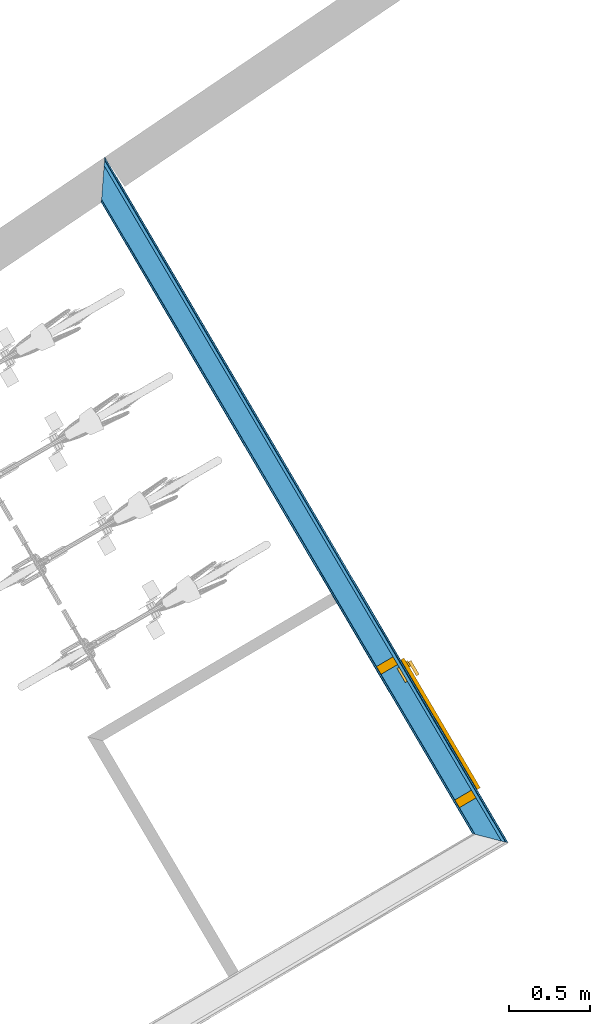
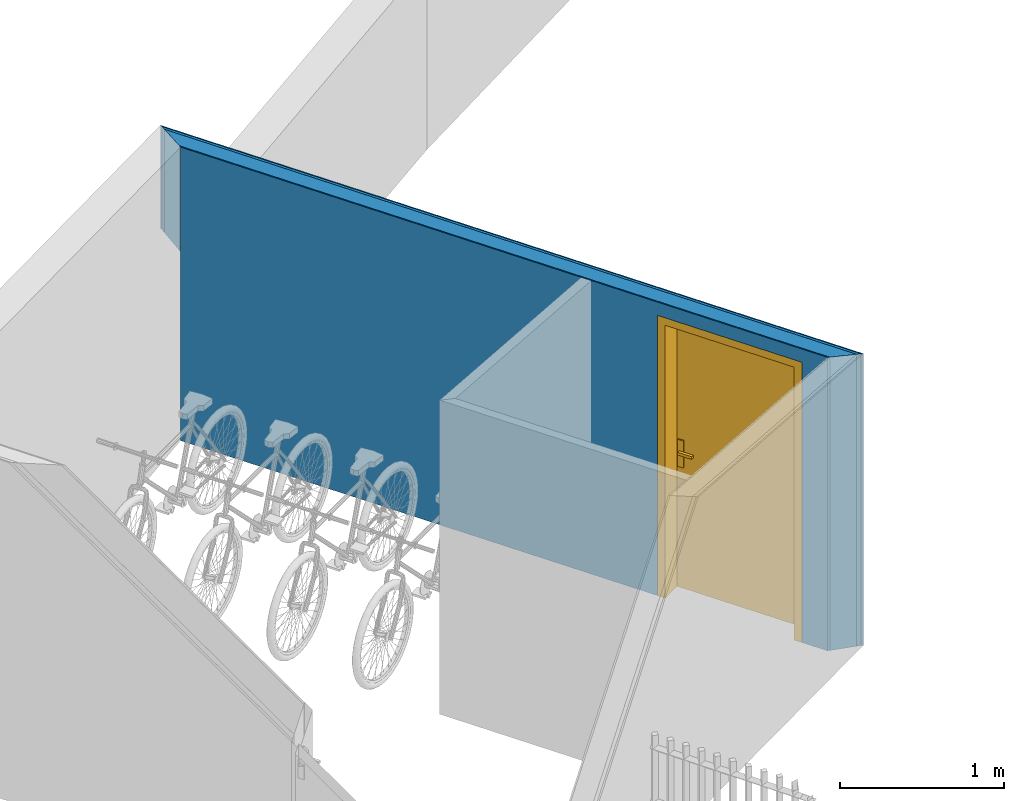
# One storey, part 116 of 195: 4 building element parts, 1 door, 1 opening, 1 element without a shape of its own.
"""IFC2X3 building model written with IfcOpenShell, lengths in metres."""

from ifc_helpers import new_model, entity, si_unit, converted_unit, derived_unit, money_unit, direction, frame, origin_with_axes, origin_2d_with_axis, place, context, subcontext, project, spatial, polyline, rectangle, outline, extrude, boolean, faceted_brep, source, transform, mapped, material, type_object, element, fill, aggregate, save


model = new_model("IFC2X3")

# Units and contexts
model_context = context("Model", 3, precision=1e-05, world=origin_with_axes(), true_north=direction((0.0, 1.0)))
body_context = subcontext(model_context, "Body", "Model", "MODEL_VIEW")
ifc_project = project(units=[si_unit("LENGTHUNIT", "METRE"), si_unit("AREAUNIT", "SQUARE_METRE"), si_unit("VOLUMEUNIT", "CUBIC_METRE"), converted_unit("PLANEANGLEUNIT", "DEGREE", entity("IfcPlaneAngleMeasure", 0.0174532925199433), si_unit("PLANEANGLEUNIT", "RADIAN"), dimensions=[0, 0, 0, 0, 0, 0, 0]), money_unit("CHF"), converted_unit("TIMEUNIT", "Year", entity("IfcTimeMeasure", 31557600.0), si_unit("TIMEUNIT", "SECOND"), dimensions=[0, 0, 1, 0, 0, 0, 0]), si_unit("MASSUNIT", "GRAM", prefix="KILO"), si_unit("THERMODYNAMICTEMPERATUREUNIT", "DEGREE_CELSIUS"), si_unit("LUMINOUSINTENSITYUNIT", "LUMEN"), si_unit("ENERGYUNIT", "JOULE", prefix="MEGA"), derived_unit("THERMALCONDUCTANCEUNIT", [(si_unit("POWERUNIT", "WATT"), 1), (si_unit("LENGTHUNIT", "METRE"), -1), (si_unit("THERMODYNAMICTEMPERATUREUNIT", "KELVIN"), -1)]), derived_unit("SPECIFICHEATCAPACITYUNIT", [(si_unit("ENERGYUNIT", "JOULE"), 1), (si_unit("MASSUNIT", "GRAM", prefix="KILO"), -1), (si_unit("THERMODYNAMICTEMPERATUREUNIT", "KELVIN"), -1)]), derived_unit("MASSDENSITYUNIT", [(si_unit("MASSUNIT", "GRAM", prefix="KILO"), 1), (si_unit("VOLUMEUNIT", "CUBIC_METRE"), -1)])], contexts=[model_context])

# Site, building, storey
site_placement = place(None, origin_with_axes())
site = spatial("IfcSite", under=ifc_project, at=site_placement, Name="Site", CompositionType="ELEMENT")
building_placement = place(site_placement, origin_with_axes())
building = spatial("IfcBuilding", under=site, at=building_placement, Name="Bâtiment", CompositionType="ELEMENT")
storey_placement = place(building_placement, origin_with_axes())
storey = spatial("IfcBuildingStorey", under=building, at=storey_placement, Name="rdc", CompositionType="ELEMENT", Elevation=0.0)

# Door
door_style = type_object("IfcDoorStyle", Name="Porte_1v", ConstructionType="NOTDEFINED", OperationType="NOTDEFINED", ParameterTakesPrecedence=False, Sizeable=False)
shared_shape = source(origin_with_axes(), body_context, "Body", "Brep", [
    faceted_brep([(0.505, 0.0, 0.0), (0.465, 0.0, 0.0), (0.465, 0.0, 2.04), (-0.465, 0.0, 2.04), (-0.465, 0.0, 0.0), (-0.505, 0.0, 0.0), (-0.505, 0.0, 2.08), (0.505, 0.0, 2.08), (0.505, -0.16, 0.0), (0.45, -0.16, 0.0), (0.45, -0.015, 0.0), (0.465, -0.015, 0.0), (0.465, -0.015, 2.04), (-0.465, -0.015, 2.04), (-0.465, -0.015, 0.0), (-0.45, -0.015, 0.0), (-0.45, -0.16, 0.0), (-0.505, -0.16, 0.0), (-0.505, -0.16, 2.08), (0.505, -0.16, 2.08), (-0.45, -0.16, 2.025), (0.45, -0.16, 2.025), (0.45, -0.015, 2.025), (-0.45, -0.015, 2.025)], [[[0, 1, 2, 3, 4, 5, 6, 7]], [[0, 8, 9, 10, 11, 1]], [[1, 11, 12, 2]], [[2, 12, 13, 3]], [[3, 13, 14, 4]], [[5, 4, 14, 15, 16, 17]], [[18, 6, 5, 17]], [[19, 7, 6, 18]], [[8, 0, 7, 19]], [[9, 8, 19, 18, 17, 16, 20, 21]], [[10, 9, 21, 22]], [[11, 10, 22, 23, 15, 14, 13, 12]], [[23, 20, 16, 15]], [[22, 21, 20, 23]]]),
    faceted_brep([(-0.4, -0.015, 0.9), (-0.44, -0.015, 0.9), (-0.44, -0.015, 1.1), (-0.4, -0.015, 1.1), (-0.4, -0.025, 0.9), (-0.44, -0.025, 0.9), (-0.44, -0.025, 1.1), (-0.4, -0.025, 1.1)], [[[0, 1, 2, 3]], [[1, 0, 4, 5]], [[2, 1, 5, 6]], [[3, 2, 6, 7]], [[0, 3, 7, 4]], [[5, 4, 7, 6]]]),
    faceted_brep([(-0.33, -0.025, 1.0), (-0.43, -0.025, 1.0), (-0.43, -0.025, 1.02), (-0.33, -0.025, 1.02), (-0.33, -0.045, 1.0), (-0.43, -0.045, 1.0), (-0.43, -0.045, 1.02), (-0.33, -0.045, 1.02)], [[[0, 1, 2, 3]], [[1, 0, 4, 5]], [[2, 1, 5, 6]], [[3, 2, 6, 7]], [[0, 3, 7, 4]], [[5, 4, 7, 6]]]),
    faceted_brep([(-0.4, 0.035, 0.9), (-0.44, 0.035, 0.9), (-0.44, 0.035, 1.1), (-0.4, 0.035, 1.1), (-0.4, 0.025, 0.9), (-0.44, 0.025, 0.9), (-0.44, 0.025, 1.1), (-0.4, 0.025, 1.1)], [[[0, 1, 2, 3]], [[1, 0, 4, 5]], [[2, 1, 5, 6]], [[3, 2, 6, 7]], [[0, 3, 7, 4]], [[5, 4, 7, 6]]]),
    faceted_brep([(-0.33, 0.05500000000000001, 1.0), (-0.43, 0.05500000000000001, 1.0), (-0.43, 0.05500000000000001, 1.02), (-0.33, 0.05500000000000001, 1.02), (-0.33, 0.035, 1.0), (-0.43, 0.035, 1.0), (-0.43, 0.035, 1.02), (-0.33, 0.035, 1.02)], [[[0, 1, 2, 3]], [[1, 0, 4, 5]], [[2, 1, 5, 6]], [[3, 2, 6, 7]], [[0, 3, 7, 4]], [[5, 4, 7, 6]]]),
    faceted_brep([(-0.465, 0.025, 0.0), (0.465, 0.025, 0.0), (0.465, -0.015, 0.0), (-0.465, -0.015, 0.0), (-0.465, 0.025, 2.04), (0.465, 0.025, 2.04), (0.465, -0.015, 2.04), (-0.465, -0.015, 2.04)], [[[0, 1, 2, 3]], [[0, 4, 5, 1]], [[1, 5, 6, 2]], [[3, 2, 6, 7]], [[4, 0, 3, 7]], [[5, 4, 7, 6]]]),
])
wall_placement = place(storey_placement, frame((9546.817992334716, -1032.553633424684, 57.7), z_axis=(0.0, 0.0, 1.0), x_axis=(0.5069461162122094, -0.8619777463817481, 0.0)))
opening_placement = place(wall_placement, frame((4.066545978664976, 0.0, 0.0), z_axis=(0.0, 0.0, 1.0), x_axis=(1.0, 0.0, 0.0)))
door_placement = place(opening_placement, frame((-0.4649999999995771, 0.0, 0.0), z_axis=(0.0, 0.0, 1.0), x_axis=(1.0, 0.0, 0.0)))
door = element("IfcDoor", 1, at=door_placement, inside=storey, type_object=door_style, Name="Por-302", OverallHeight=2.04, OverallWidth=0.93, context=body_context, shape_type="MappedRepresentation", body=[
    mapped(shared_shape, transform((0.4650000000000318, 0.0, 0.0))),
])

# Wall, opening
wall_type = type_object("IfcWallType", Name="1/Ossatur bois 160   non isol 160", PredefinedType="NOTDEFINED")
wall = element("IfcWall", 2, at=wall_placement, inside=storey, type_object=wall_type, Name="Mur-108")
opening = element("IfcOpeningElement", 3, at=opening_placement, cuts=wall, Name="Por-302", context=body_context, shape_type="SweptSolid", body=[
    extrude(rectangle(XDim=1.01000001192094, YDim=2.079999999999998, at=origin_2d_with_axis()), frame((5.960373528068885e-09, -0.1600000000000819, 1.039999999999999), z_axis=(0.0, 1.0, 0.0), x_axis=(1.0, 0.0, 0.0)), (0.0, 0.0, 1.0), 0.32),
])

fill(opening, door)

# Building element part
ifc_material_1 = material(Name="Sans Trame 296962763")
building_element_part_1_placement = place(wall_placement, origin_with_axes())
building_element_part_1 = element("IfcBuildingElementPart", 4, at=building_element_part_1_placement, material=ifc_material_1, Name="Sans Trame 296962763", context=body_context, shape_type="CSG", body=[
    boolean("DIFFERENCE", boolean("DIFFERENCE", boolean("DIFFERENCE", boolean("DIFFERENCE", extrude(outline(polyline([(0.0, -0.1599999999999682), (4.911132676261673, -0.1599999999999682), (4.911132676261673, -0.1500000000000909), (0.0, -0.1499999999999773), (0.0, -0.1599999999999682)])), origin_with_axes(), (0.0, 0.0, 1.0), 2.75), faceted_brep([(0.2300026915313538, -0.1500000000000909, 1.399999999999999), (0.230002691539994, -0.1499999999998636, 0.0), (0.0, -0.1499999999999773, 0.0), (0.0, -0.1499999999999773, 2.75), (4.911132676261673, -0.1500000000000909, 2.75), (4.911132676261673, -0.1500000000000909, 0.0), (4.761132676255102, -0.1499999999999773, 0.0), (4.761132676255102, -0.1500000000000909, 2.177348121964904), (0.2162248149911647, -0.1500000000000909, 2.177348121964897), (0.2162248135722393, -0.1499999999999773, 1.399999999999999), (0.2306398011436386, -0.1600000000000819, 1.399999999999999), (0.2306398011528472, -0.1599999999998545, 0.0), (0.0, -0.1599999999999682, 0.0), (0.0, -0.1599999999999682, 2.75), (4.911132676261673, -0.1599999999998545, 2.75), (4.911132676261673, -0.1599999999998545, 0.0), (4.751132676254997, -0.1599999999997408, 0.0), (4.751132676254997, -0.1599999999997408, 2.178223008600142), (0.2306398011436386, -0.1600000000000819, 2.178223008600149)], [[[0, 1, 2, 3, 4, 5, 6, 7, 8, 9]], [[1, 0, 10, 11]], [[1, 11, 12, 2]], [[3, 2, 12, 13]], [[3, 13, 14, 4]], [[14, 15, 5, 4]], [[16, 6, 5, 15]], [[7, 6, 16, 17]], [[8, 7, 17, 18]], [[9, 8, 18, 10]], [[0, 9, 10]], [[17, 16, 15, 14, 13, 12, 11, 10, 18]]])), faceted_brep([(0.2223573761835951, -0.02999999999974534, 1.400000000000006), (0.2223573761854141, -0.0300000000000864, 0.0), (0.0, -0.02999999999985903, 0.0), (0.0, -0.02999999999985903, 2.75), (4.911132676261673, -0.02999999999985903, 2.75), (4.911132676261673, -0.02999999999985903, 0.0), (4.881132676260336, -0.02999999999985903, 0.0), (4.881132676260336, -0.02999999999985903, 2.166849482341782), (0.04324498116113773, -0.02999999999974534, 2.16684948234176), (0.04324496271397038, -0.02999999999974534, 1.399999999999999), (0.2300026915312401, -0.1499999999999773, 1.399999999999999), (0.230002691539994, -0.1499999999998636, 0.0), (0.0, -0.1499999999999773, 0.0), (0.0, -0.1499999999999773, 2.75), (4.911132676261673, -0.1500000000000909, 2.75), (4.911132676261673, -0.1500000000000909, 0.0), (4.761132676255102, -0.1499999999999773, 0.0), (4.761132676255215, -0.1499999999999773, 2.177348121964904), (0.2162248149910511, -0.1499999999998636, 2.177348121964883), (0.216224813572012, -0.1499999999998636, 1.399999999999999)], [[[0, 1, 2, 3, 4, 5, 6, 7, 8, 9]], [[1, 0, 10, 11]], [[1, 11, 12, 2]], [[3, 2, 12, 13]], [[3, 13, 14, 4]], [[14, 15, 5, 4]], [[16, 6, 5, 15]], [[7, 6, 16, 17]], [[8, 7, 17, 18]], [[9, 8, 18, 19]], [[0, 9, 19, 10]], [[17, 16, 15, 14, 13, 12, 11, 10, 19, 18]]])), faceted_brep([(0.2210831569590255, -0.009999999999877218, 1.400000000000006), (0.2210831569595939, -0.01000000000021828, 0.0), (0.0, -0.009999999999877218, 0.0), (0.0, -0.009999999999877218, 2.75), (4.911132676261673, -0.009999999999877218, 2.75), (4.911132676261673, -0.009999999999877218, 0.0), (4.901132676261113, -0.009999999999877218, 0.0), (4.901132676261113, -0.009999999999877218, 2.165099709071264), (0.01441500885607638, -0.009999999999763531, 2.165099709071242), (0.01441498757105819, -0.009999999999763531, 1.399999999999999), (0.2223573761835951, -0.02999999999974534, 1.400000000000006), (0.2223573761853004, -0.02999999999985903, 0.0), (0.0, -0.02999999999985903, 0.0), (0.0, -0.02999999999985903, 2.75), (4.911132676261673, -0.02999999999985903, 2.75), (4.911132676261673, -0.02999999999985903, 0.0), (4.881132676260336, -0.02999999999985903, 0.0), (4.881132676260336, -0.02999999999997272, 2.166849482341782), (0.04324498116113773, -0.02999999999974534, 2.16684948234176), (0.04324496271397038, -0.02999999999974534, 1.399999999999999)], [[[0, 1, 2, 3, 4, 5, 6, 7, 8, 9]], [[1, 0, 10, 11]], [[1, 11, 12, 2]], [[3, 2, 12, 13]], [[3, 13, 14, 4]], [[14, 15, 5, 4]], [[16, 6, 5, 15]], [[7, 6, 16, 17]], [[8, 7, 17, 18]], [[9, 8, 18, 19]], [[0, 9, 19, 10]], [[17, 16, 15, 14, 13, 12, 11, 10, 19, 18]]])), faceted_brep([(4.911132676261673, 0.0, 0.0), (4.911132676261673, 0.0, 2.164224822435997), (4.911132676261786, 0.0, 2.75), (4.911132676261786, -0.009999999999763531, 2.75), (4.911132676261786, -0.009999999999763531, 0.0), (4.901132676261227, -0.009999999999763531, 0.0), (4.901132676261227, -0.009999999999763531, 2.165099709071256), (6.578829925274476e-09, 1.118633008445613e-08, 2.164224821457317), (0.0, 0.0, 2.75), (0.0, -0.009999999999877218, 2.75), (0.0, -0.009999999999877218, 0.0), (0.2210831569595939, -0.009999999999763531, 0.0), (0.2210831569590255, -0.009999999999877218, 1.400000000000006), (0.01441498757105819, -0.009999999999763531, 1.399999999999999), (0.01441500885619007, -0.009999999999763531, 2.165099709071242), (0.0, 0.0, 1.399999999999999), (0.0, 0.0, 0.0), (0.2204460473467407, 0.0, 0.0), (0.2204460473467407, 0.0, 1.400000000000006)], [[[0, 1, 2, 3, 4]], [[1, 0, 5, 6]], [[1, 7, 8, 2]], [[8, 9, 3, 2]], [[6, 5, 4, 3, 9, 10, 11, 12, 13, 14]], [[5, 0, 4]], [[7, 1, 6, 14]], [[7, 15, 16, 10, 9, 8]], [[17, 11, 10, 16]], [[17, 18, 12, 11]], [[18, 15, 13, 12]], [[15, 7, 14, 13]], [[18, 17, 16, 15]]])),
])

ifc_material_2 = material(Name="Lame d'air 275581439")
building_element_part_2_placement = place(wall_placement, origin_with_axes())
building_element_part_2 = element("IfcBuildingElementPart", 5, at=building_element_part_2_placement, material=ifc_material_2, Name="Lame d'air 275581439", context=body_context, shape_type="CSG", body=[
    boolean("DIFFERENCE", boolean("DIFFERENCE", boolean("DIFFERENCE", boolean("DIFFERENCE", extrude(outline(polyline([(0.0, -0.1499999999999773), (4.911132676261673, -0.1500000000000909), (4.911132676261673, -0.02999999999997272), (0.0, -0.02999999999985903), (0.0, -0.1499999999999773)])), origin_with_axes(), (0.0, 0.0, 1.0), 2.75), faceted_brep([(0.2300026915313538, -0.1500000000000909, 1.399999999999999), (0.230002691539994, -0.1499999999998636, 0.0), (0.0, -0.1499999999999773, 0.0), (0.0, -0.1499999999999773, 2.75), (4.911132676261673, -0.1500000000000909, 2.75), (4.911132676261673, -0.1500000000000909, 0.0), (4.761132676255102, -0.1499999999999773, 0.0), (4.761132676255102, -0.1500000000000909, 2.177348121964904), (0.2162248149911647, -0.1500000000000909, 2.177348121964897), (0.2162248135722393, -0.1499999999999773, 1.399999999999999), (0.2306398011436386, -0.1600000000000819, 1.399999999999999), (0.2306398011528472, -0.1599999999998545, 0.0), (0.0, -0.1599999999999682, 0.0), (0.0, -0.1599999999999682, 2.75), (4.911132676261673, -0.1599999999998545, 2.75), (4.911132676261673, -0.1599999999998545, 0.0), (4.751132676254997, -0.1599999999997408, 0.0), (4.751132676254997, -0.1599999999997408, 2.178223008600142), (0.2306398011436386, -0.1600000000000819, 2.178223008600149)], [[[0, 1, 2, 3, 4, 5, 6, 7, 8, 9]], [[1, 0, 10, 11]], [[1, 11, 12, 2]], [[3, 2, 12, 13]], [[3, 13, 14, 4]], [[14, 15, 5, 4]], [[16, 6, 5, 15]], [[7, 6, 16, 17]], [[8, 7, 17, 18]], [[9, 8, 18, 10]], [[0, 9, 10]], [[17, 16, 15, 14, 13, 12, 11, 10, 18]]])), faceted_brep([(0.2223573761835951, -0.02999999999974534, 1.400000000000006), (0.2223573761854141, -0.0300000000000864, 0.0), (0.0, -0.02999999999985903, 0.0), (0.0, -0.02999999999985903, 2.75), (4.911132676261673, -0.02999999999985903, 2.75), (4.911132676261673, -0.02999999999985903, 0.0), (4.881132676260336, -0.02999999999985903, 0.0), (4.881132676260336, -0.02999999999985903, 2.166849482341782), (0.04324498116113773, -0.02999999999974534, 2.16684948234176), (0.04324496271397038, -0.02999999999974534, 1.399999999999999), (0.2300026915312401, -0.1499999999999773, 1.399999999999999), (0.230002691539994, -0.1499999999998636, 0.0), (0.0, -0.1499999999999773, 0.0), (0.0, -0.1499999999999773, 2.75), (4.911132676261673, -0.1500000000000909, 2.75), (4.911132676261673, -0.1500000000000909, 0.0), (4.761132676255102, -0.1499999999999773, 0.0), (4.761132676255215, -0.1499999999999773, 2.177348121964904), (0.2162248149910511, -0.1499999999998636, 2.177348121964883), (0.216224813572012, -0.1499999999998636, 1.399999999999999)], [[[0, 1, 2, 3, 4, 5, 6, 7, 8, 9]], [[1, 0, 10, 11]], [[1, 11, 12, 2]], [[3, 2, 12, 13]], [[3, 13, 14, 4]], [[14, 15, 5, 4]], [[16, 6, 5, 15]], [[7, 6, 16, 17]], [[8, 7, 17, 18]], [[9, 8, 18, 19]], [[0, 9, 19, 10]], [[17, 16, 15, 14, 13, 12, 11, 10, 19, 18]]])), faceted_brep([(0.2210831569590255, -0.009999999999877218, 1.400000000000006), (0.2210831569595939, -0.01000000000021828, 0.0), (0.0, -0.009999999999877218, 0.0), (0.0, -0.009999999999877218, 2.75), (4.911132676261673, -0.009999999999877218, 2.75), (4.911132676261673, -0.009999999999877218, 0.0), (4.901132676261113, -0.009999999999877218, 0.0), (4.901132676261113, -0.009999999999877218, 2.165099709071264), (0.01441500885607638, -0.009999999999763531, 2.165099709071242), (0.01441498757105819, -0.009999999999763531, 1.399999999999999), (0.2223573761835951, -0.02999999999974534, 1.400000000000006), (0.2223573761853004, -0.02999999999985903, 0.0), (0.0, -0.02999999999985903, 0.0), (0.0, -0.02999999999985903, 2.75), (4.911132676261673, -0.02999999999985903, 2.75), (4.911132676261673, -0.02999999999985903, 0.0), (4.881132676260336, -0.02999999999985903, 0.0), (4.881132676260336, -0.02999999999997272, 2.166849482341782), (0.04324498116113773, -0.02999999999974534, 2.16684948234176), (0.04324496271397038, -0.02999999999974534, 1.399999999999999)], [[[0, 1, 2, 3, 4, 5, 6, 7, 8, 9]], [[1, 0, 10, 11]], [[1, 11, 12, 2]], [[3, 2, 12, 13]], [[3, 13, 14, 4]], [[14, 15, 5, 4]], [[16, 6, 5, 15]], [[7, 6, 16, 17]], [[8, 7, 17, 18]], [[9, 8, 18, 19]], [[0, 9, 19, 10]], [[17, 16, 15, 14, 13, 12, 11, 10, 19, 18]]])), faceted_brep([(4.911132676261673, 0.0, 0.0), (4.911132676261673, 0.0, 2.164224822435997), (4.911132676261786, 0.0, 2.75), (4.911132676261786, -0.009999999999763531, 2.75), (4.911132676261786, -0.009999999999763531, 0.0), (4.901132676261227, -0.009999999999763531, 0.0), (4.901132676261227, -0.009999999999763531, 2.165099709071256), (6.578829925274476e-09, 1.118633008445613e-08, 2.164224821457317), (0.0, 0.0, 2.75), (0.0, -0.009999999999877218, 2.75), (0.0, -0.009999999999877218, 0.0), (0.2210831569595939, -0.009999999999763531, 0.0), (0.2210831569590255, -0.009999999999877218, 1.400000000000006), (0.01441498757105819, -0.009999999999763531, 1.399999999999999), (0.01441500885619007, -0.009999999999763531, 2.165099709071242), (0.0, 0.0, 1.399999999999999), (0.0, 0.0, 0.0), (0.2204460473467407, 0.0, 0.0), (0.2204460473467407, 0.0, 1.400000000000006)], [[[0, 1, 2, 3, 4]], [[1, 0, 5, 6]], [[1, 7, 8, 2]], [[8, 9, 3, 2]], [[6, 5, 4, 3, 9, 10, 11, 12, 13, 14]], [[5, 0, 4]], [[7, 1, 6, 14]], [[7, 15, 16, 10, 9, 8]], [[17, 11, 10, 16]], [[17, 18, 12, 11]], [[18, 15, 13, 12]], [[15, 7, 14, 13]], [[18, 17, 16, 15]]])),
])

ifc_material_3 = material(Name="Lame d'air 323202302")
building_element_part_3_placement = place(wall_placement, origin_with_axes())
building_element_part_3 = element("IfcBuildingElementPart", 6, at=building_element_part_3_placement, material=ifc_material_3, Name="Lame d'air 323202302", context=body_context, shape_type="CSG", body=[
    boolean("DIFFERENCE", boolean("DIFFERENCE", boolean("DIFFERENCE", boolean("DIFFERENCE", extrude(outline(polyline([(0.0, -0.02999999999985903), (4.911132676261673, -0.02999999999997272), (4.911132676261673, -0.009999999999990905), (0.0, -0.009999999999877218), (0.0, -0.02999999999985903)])), origin_with_axes(), (0.0, 0.0, 1.0), 2.75), faceted_brep([(0.2300026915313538, -0.1500000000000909, 1.399999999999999), (0.230002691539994, -0.1499999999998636, 0.0), (0.0, -0.1499999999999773, 0.0), (0.0, -0.1499999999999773, 2.75), (4.911132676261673, -0.1500000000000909, 2.75), (4.911132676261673, -0.1500000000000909, 0.0), (4.761132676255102, -0.1499999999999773, 0.0), (4.761132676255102, -0.1500000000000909, 2.177348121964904), (0.2162248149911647, -0.1500000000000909, 2.177348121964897), (0.2162248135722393, -0.1499999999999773, 1.399999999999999), (0.2306398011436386, -0.1600000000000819, 1.399999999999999), (0.2306398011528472, -0.1599999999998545, 0.0), (0.0, -0.1599999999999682, 0.0), (0.0, -0.1599999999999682, 2.75), (4.911132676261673, -0.1599999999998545, 2.75), (4.911132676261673, -0.1599999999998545, 0.0), (4.751132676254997, -0.1599999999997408, 0.0), (4.751132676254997, -0.1599999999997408, 2.178223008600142), (0.2306398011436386, -0.1600000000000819, 2.178223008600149)], [[[0, 1, 2, 3, 4, 5, 6, 7, 8, 9]], [[1, 0, 10, 11]], [[1, 11, 12, 2]], [[3, 2, 12, 13]], [[3, 13, 14, 4]], [[14, 15, 5, 4]], [[16, 6, 5, 15]], [[7, 6, 16, 17]], [[8, 7, 17, 18]], [[9, 8, 18, 10]], [[0, 9, 10]], [[17, 16, 15, 14, 13, 12, 11, 10, 18]]])), faceted_brep([(0.2223573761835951, -0.02999999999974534, 1.400000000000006), (0.2223573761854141, -0.0300000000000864, 0.0), (0.0, -0.02999999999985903, 0.0), (0.0, -0.02999999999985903, 2.75), (4.911132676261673, -0.02999999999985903, 2.75), (4.911132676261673, -0.02999999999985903, 0.0), (4.881132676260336, -0.02999999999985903, 0.0), (4.881132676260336, -0.02999999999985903, 2.166849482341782), (0.04324498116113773, -0.02999999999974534, 2.16684948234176), (0.04324496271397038, -0.02999999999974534, 1.399999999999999), (0.2300026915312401, -0.1499999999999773, 1.399999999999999), (0.230002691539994, -0.1499999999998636, 0.0), (0.0, -0.1499999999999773, 0.0), (0.0, -0.1499999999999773, 2.75), (4.911132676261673, -0.1500000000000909, 2.75), (4.911132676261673, -0.1500000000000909, 0.0), (4.761132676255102, -0.1499999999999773, 0.0), (4.761132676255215, -0.1499999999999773, 2.177348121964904), (0.2162248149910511, -0.1499999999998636, 2.177348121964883), (0.216224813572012, -0.1499999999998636, 1.399999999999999)], [[[0, 1, 2, 3, 4, 5, 6, 7, 8, 9]], [[1, 0, 10, 11]], [[1, 11, 12, 2]], [[3, 2, 12, 13]], [[3, 13, 14, 4]], [[14, 15, 5, 4]], [[16, 6, 5, 15]], [[7, 6, 16, 17]], [[8, 7, 17, 18]], [[9, 8, 18, 19]], [[0, 9, 19, 10]], [[17, 16, 15, 14, 13, 12, 11, 10, 19, 18]]])), faceted_brep([(0.2210831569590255, -0.009999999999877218, 1.400000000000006), (0.2210831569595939, -0.01000000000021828, 0.0), (0.0, -0.009999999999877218, 0.0), (0.0, -0.009999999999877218, 2.75), (4.911132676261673, -0.009999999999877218, 2.75), (4.911132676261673, -0.009999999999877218, 0.0), (4.901132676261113, -0.009999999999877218, 0.0), (4.901132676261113, -0.009999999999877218, 2.165099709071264), (0.01441500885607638, -0.009999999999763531, 2.165099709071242), (0.01441498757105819, -0.009999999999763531, 1.399999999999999), (0.2223573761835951, -0.02999999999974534, 1.400000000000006), (0.2223573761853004, -0.02999999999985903, 0.0), (0.0, -0.02999999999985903, 0.0), (0.0, -0.02999999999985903, 2.75), (4.911132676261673, -0.02999999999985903, 2.75), (4.911132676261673, -0.02999999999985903, 0.0), (4.881132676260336, -0.02999999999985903, 0.0), (4.881132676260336, -0.02999999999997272, 2.166849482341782), (0.04324498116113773, -0.02999999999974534, 2.16684948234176), (0.04324496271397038, -0.02999999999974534, 1.399999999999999)], [[[0, 1, 2, 3, 4, 5, 6, 7, 8, 9]], [[1, 0, 10, 11]], [[1, 11, 12, 2]], [[3, 2, 12, 13]], [[3, 13, 14, 4]], [[14, 15, 5, 4]], [[16, 6, 5, 15]], [[7, 6, 16, 17]], [[8, 7, 17, 18]], [[9, 8, 18, 19]], [[0, 9, 19, 10]], [[17, 16, 15, 14, 13, 12, 11, 10, 19, 18]]])), faceted_brep([(4.911132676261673, 0.0, 0.0), (4.911132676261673, 0.0, 2.164224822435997), (4.911132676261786, 0.0, 2.75), (4.911132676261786, -0.009999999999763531, 2.75), (4.911132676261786, -0.009999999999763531, 0.0), (4.901132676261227, -0.009999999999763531, 0.0), (4.901132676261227, -0.009999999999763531, 2.165099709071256), (6.578829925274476e-09, 1.118633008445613e-08, 2.164224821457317), (0.0, 0.0, 2.75), (0.0, -0.009999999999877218, 2.75), (0.0, -0.009999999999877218, 0.0), (0.2210831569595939, -0.009999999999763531, 0.0), (0.2210831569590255, -0.009999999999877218, 1.400000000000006), (0.01441498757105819, -0.009999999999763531, 1.399999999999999), (0.01441500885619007, -0.009999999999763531, 2.165099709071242), (0.0, 0.0, 1.399999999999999), (0.0, 0.0, 0.0), (0.2204460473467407, 0.0, 0.0), (0.2204460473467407, 0.0, 1.400000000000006)], [[[0, 1, 2, 3, 4]], [[1, 0, 5, 6]], [[1, 7, 8, 2]], [[8, 9, 3, 2]], [[6, 5, 4, 3, 9, 10, 11, 12, 13, 14]], [[5, 0, 4]], [[7, 1, 6, 14]], [[7, 15, 16, 10, 9, 8]], [[17, 11, 10, 16]], [[17, 18, 12, 11]], [[18, 15, 13, 12]], [[15, 7, 14, 13]], [[18, 17, 16, 15]]])),
])

ifc_material_4 = material(Name="Hachure solide 323202122")
building_element_part_4_placement = place(wall_placement, origin_with_axes())
building_element_part_4 = element("IfcBuildingElementPart", 7, at=building_element_part_4_placement, material=ifc_material_4, Name="Hachure solide 323202122", context=body_context, shape_type="CSG", body=[
    boolean("DIFFERENCE", boolean("DIFFERENCE", boolean("DIFFERENCE", boolean("DIFFERENCE", extrude(outline(polyline([(0.0, -0.009999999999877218), (4.911132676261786, -0.009999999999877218), (4.911132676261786, 0.0), (0.0, 0.0), (0.0, -0.009999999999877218)])), origin_with_axes(), (0.0, 0.0, 1.0), 2.75), faceted_brep([(0.2300026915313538, -0.1500000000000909, 1.399999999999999), (0.230002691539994, -0.1499999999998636, 0.0), (0.0, -0.1499999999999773, 0.0), (0.0, -0.1499999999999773, 2.75), (4.911132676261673, -0.1500000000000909, 2.75), (4.911132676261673, -0.1500000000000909, 0.0), (4.761132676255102, -0.1499999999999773, 0.0), (4.761132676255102, -0.1500000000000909, 2.177348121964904), (0.2162248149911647, -0.1500000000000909, 2.177348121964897), (0.2162248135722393, -0.1499999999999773, 1.399999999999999), (0.2306398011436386, -0.1600000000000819, 1.399999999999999), (0.2306398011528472, -0.1599999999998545, 0.0), (0.0, -0.1599999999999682, 0.0), (0.0, -0.1599999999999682, 2.75), (4.911132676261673, -0.1599999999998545, 2.75), (4.911132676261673, -0.1599999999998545, 0.0), (4.751132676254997, -0.1599999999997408, 0.0), (4.751132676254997, -0.1599999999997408, 2.178223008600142), (0.2306398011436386, -0.1600000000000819, 2.178223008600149)], [[[0, 1, 2, 3, 4, 5, 6, 7, 8, 9]], [[1, 0, 10, 11]], [[1, 11, 12, 2]], [[3, 2, 12, 13]], [[3, 13, 14, 4]], [[14, 15, 5, 4]], [[16, 6, 5, 15]], [[7, 6, 16, 17]], [[8, 7, 17, 18]], [[9, 8, 18, 10]], [[0, 9, 10]], [[17, 16, 15, 14, 13, 12, 11, 10, 18]]])), faceted_brep([(0.2223573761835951, -0.02999999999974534, 1.400000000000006), (0.2223573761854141, -0.0300000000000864, 0.0), (0.0, -0.02999999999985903, 0.0), (0.0, -0.02999999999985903, 2.75), (4.911132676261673, -0.02999999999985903, 2.75), (4.911132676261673, -0.02999999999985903, 0.0), (4.881132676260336, -0.02999999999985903, 0.0), (4.881132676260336, -0.02999999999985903, 2.166849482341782), (0.04324498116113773, -0.02999999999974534, 2.16684948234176), (0.04324496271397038, -0.02999999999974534, 1.399999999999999), (0.2300026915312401, -0.1499999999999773, 1.399999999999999), (0.230002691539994, -0.1499999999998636, 0.0), (0.0, -0.1499999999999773, 0.0), (0.0, -0.1499999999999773, 2.75), (4.911132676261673, -0.1500000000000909, 2.75), (4.911132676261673, -0.1500000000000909, 0.0), (4.761132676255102, -0.1499999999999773, 0.0), (4.761132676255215, -0.1499999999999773, 2.177348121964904), (0.2162248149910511, -0.1499999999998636, 2.177348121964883), (0.216224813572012, -0.1499999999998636, 1.399999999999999)], [[[0, 1, 2, 3, 4, 5, 6, 7, 8, 9]], [[1, 0, 10, 11]], [[1, 11, 12, 2]], [[3, 2, 12, 13]], [[3, 13, 14, 4]], [[14, 15, 5, 4]], [[16, 6, 5, 15]], [[7, 6, 16, 17]], [[8, 7, 17, 18]], [[9, 8, 18, 19]], [[0, 9, 19, 10]], [[17, 16, 15, 14, 13, 12, 11, 10, 19, 18]]])), faceted_brep([(0.2210831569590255, -0.009999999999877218, 1.400000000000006), (0.2210831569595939, -0.01000000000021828, 0.0), (0.0, -0.009999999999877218, 0.0), (0.0, -0.009999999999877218, 2.75), (4.911132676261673, -0.009999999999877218, 2.75), (4.911132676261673, -0.009999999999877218, 0.0), (4.901132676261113, -0.009999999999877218, 0.0), (4.901132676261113, -0.009999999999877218, 2.165099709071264), (0.01441500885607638, -0.009999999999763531, 2.165099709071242), (0.01441498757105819, -0.009999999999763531, 1.399999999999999), (0.2223573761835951, -0.02999999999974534, 1.400000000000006), (0.2223573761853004, -0.02999999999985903, 0.0), (0.0, -0.02999999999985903, 0.0), (0.0, -0.02999999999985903, 2.75), (4.911132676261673, -0.02999999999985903, 2.75), (4.911132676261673, -0.02999999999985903, 0.0), (4.881132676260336, -0.02999999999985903, 0.0), (4.881132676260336, -0.02999999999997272, 2.166849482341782), (0.04324498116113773, -0.02999999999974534, 2.16684948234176), (0.04324496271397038, -0.02999999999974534, 1.399999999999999)], [[[0, 1, 2, 3, 4, 5, 6, 7, 8, 9]], [[1, 0, 10, 11]], [[1, 11, 12, 2]], [[3, 2, 12, 13]], [[3, 13, 14, 4]], [[14, 15, 5, 4]], [[16, 6, 5, 15]], [[7, 6, 16, 17]], [[8, 7, 17, 18]], [[9, 8, 18, 19]], [[0, 9, 19, 10]], [[17, 16, 15, 14, 13, 12, 11, 10, 19, 18]]])), faceted_brep([(4.911132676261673, 0.0, 0.0), (4.911132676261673, 0.0, 2.164224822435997), (4.911132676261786, 0.0, 2.75), (4.911132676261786, -0.009999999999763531, 2.75), (4.911132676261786, -0.009999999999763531, 0.0), (4.901132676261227, -0.009999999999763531, 0.0), (4.901132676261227, -0.009999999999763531, 2.165099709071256), (6.578829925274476e-09, 1.118633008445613e-08, 2.164224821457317), (0.0, 0.0, 2.75), (0.0, -0.009999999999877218, 2.75), (0.0, -0.009999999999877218, 0.0), (0.2210831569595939, -0.009999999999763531, 0.0), (0.2210831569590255, -0.009999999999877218, 1.400000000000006), (0.01441498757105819, -0.009999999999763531, 1.399999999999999), (0.01441500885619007, -0.009999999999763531, 2.165099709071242), (0.0, 0.0, 1.399999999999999), (0.0, 0.0, 0.0), (0.2204460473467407, 0.0, 0.0), (0.2204460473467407, 0.0, 1.400000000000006)], [[[0, 1, 2, 3, 4]], [[1, 0, 5, 6]], [[1, 7, 8, 2]], [[8, 9, 3, 2]], [[6, 5, 4, 3, 9, 10, 11, 12, 13, 14]], [[5, 0, 4]], [[7, 1, 6, 14]], [[7, 15, 16, 10, 9, 8]], [[17, 11, 10, 16]], [[17, 18, 12, 11]], [[18, 15, 13, 12]], [[15, 7, 14, 13]], [[18, 17, 16, 15]]])),
])

aggregate(wall, [building_element_part_1, building_element_part_2, building_element_part_3, building_element_part_4])

save(model, "model.ifc")
